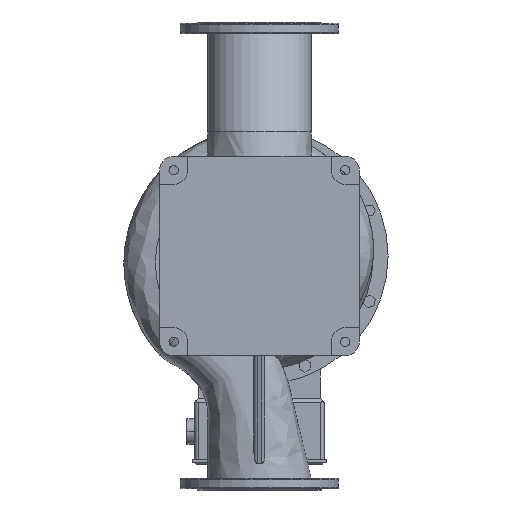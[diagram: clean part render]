
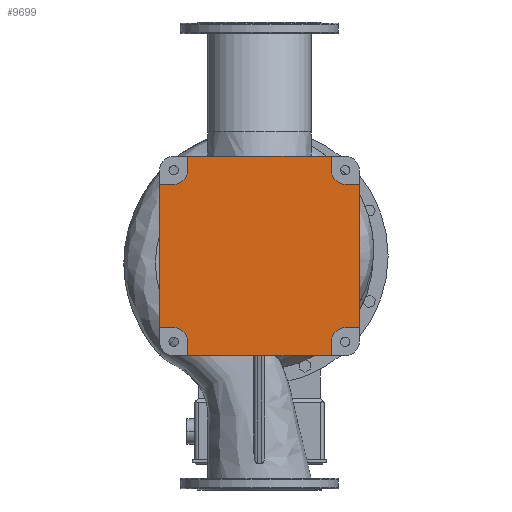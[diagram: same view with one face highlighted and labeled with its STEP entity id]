
A CAD part, front view. The second image highlights one B-rep face of the part: STEP entity #9699.
In plain terms, the highlighted planar face has unit normal (0, -1, 0).
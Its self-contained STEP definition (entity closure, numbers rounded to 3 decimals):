
#32 = CARTESIAN_POINT ( 'NONE',  ( 184., -300., 220. ) ) ;
#313 = CARTESIAN_POINT ( 'NONE',  ( -256., -300., 184. ) ) ;
#452 = VERTEX_POINT ( 'NONE', #11886 ) ;
#931 = CARTESIAN_POINT ( 'NONE',  ( -184., -300., 220. ) ) ;
#1039 = VERTEX_POINT ( 'NONE', #23286 ) ;
#1996 = VECTOR ( 'NONE', #16384, 1000. ) ;
#2011 = VECTOR ( 'NONE', #2396, 1000. ) ;
#2184 = ORIENTED_EDGE ( 'NONE', *, *, #9184, .T. ) ;
#2396 = DIRECTION ( 'NONE',  ( 1., 0., 0. ) ) ;
#2421 = CARTESIAN_POINT ( 'NONE',  ( 256., -300., 184. ) ) ;
#2545 = LINE ( 'NONE', #32, #1996 ) ;
#2625 = AXIS2_PLACEMENT_3D ( 'NONE', #17658, #9736, #12782 ) ;
#2757 = CARTESIAN_POINT ( 'NONE',  ( 220., -300., -184. ) ) ;
#2786 = ORIENTED_EDGE ( 'NONE', *, *, #6501, .T. ) ;
#3162 = LINE ( 'NONE', #16833, #24832 ) ;
#3239 = VERTEX_POINT ( 'NONE', #35178 ) ;
#3305 = EDGE_CURVE ( 'NONE', #21780, #3239, #10865, .T. ) ;
#3332 = CARTESIAN_POINT ( 'NONE',  ( 220., -300., 184. ) ) ;
#3602 = DIRECTION ( 'NONE',  ( 0., 0., 1. ) ) ;
#3697 = VERTEX_POINT ( 'NONE', #4688 ) ;
#4048 = ORIENTED_EDGE ( 'NONE', *, *, #25291, .T. ) ;
#4058 = CIRCLE ( 'NONE', #8644, 36. ) ;
#4380 = AXIS2_PLACEMENT_3D ( 'NONE', #17268, #8449, #3602 ) ;
#4466 = DIRECTION ( 'NONE',  ( 0., 1., 0. ) ) ;
#4534 = LINE ( 'NONE', #15497, #20437 ) ;
#4688 = CARTESIAN_POINT ( 'NONE',  ( -256., -300., -184. ) ) ;
#4871 = EDGE_CURVE ( 'NONE', #25423, #23078, #16441, .T. ) ;
#4922 = VERTEX_POINT ( 'NONE', #3332 ) ;
#5133 = DIRECTION ( 'NONE',  ( -1., 0., 0. ) ) ;
#5164 = CARTESIAN_POINT ( 'NONE',  ( 220., -300., 184. ) ) ;
#5444 = LINE ( 'NONE', #2757, #15783 ) ;
#5821 = ORIENTED_EDGE ( 'NONE', *, *, #7088, .T. ) ;
#6243 = CIRCLE ( 'NONE', #11986, 36. ) ;
#6501 = EDGE_CURVE ( 'NONE', #3697, #20172, #29746, .T. ) ;
#6646 = DIRECTION ( 'NONE',  ( 1., 0., 0. ) ) ;
#7088 = EDGE_CURVE ( 'NONE', #11194, #9274, #30184, .T. ) ;
#7127 = EDGE_CURVE ( 'NONE', #10412, #20840, #4534, .T. ) ;
#7171 = ORIENTED_EDGE ( 'NONE', *, *, #3305, .T. ) ;
#7666 = DIRECTION ( 'NONE',  ( 0., 0., -1. ) ) ;
#7984 = CARTESIAN_POINT ( 'NONE',  ( 256., -300., -184. ) ) ;
#8449 = DIRECTION ( 'NONE',  ( 0., 1., 0. ) ) ;
#8454 = CARTESIAN_POINT ( 'NONE',  ( 184., -300., 220. ) ) ;
#8601 = ORIENTED_EDGE ( 'NONE', *, *, #4871, .T. ) ;
#8644 = AXIS2_PLACEMENT_3D ( 'NONE', #27426, #29435, #24197 ) ;
#8700 = DIRECTION ( 'NONE',  ( 1., 0., 0. ) ) ;
#8917 = ORIENTED_EDGE ( 'NONE', *, *, #18552, .T. ) ;
#9184 = EDGE_CURVE ( 'NONE', #23078, #11194, #25572, .T. ) ;
#9274 = VERTEX_POINT ( 'NONE', #20716 ) ;
#9275 = EDGE_CURVE ( 'NONE', #20172, #452, #30213, .T. ) ;
#9521 = VERTEX_POINT ( 'NONE', #15650 ) ;
#9699 = ADVANCED_FACE ( 'NONE', ( #21947 ), #11684, .F. ) ;
#9736 = DIRECTION ( 'NONE',  ( 0., 1., 0. ) ) ;
#10359 = LINE ( 'NONE', #32320, #12469 ) ;
#10412 = VERTEX_POINT ( 'NONE', #18273 ) ;
#10457 = CARTESIAN_POINT ( 'NONE',  ( -220., -300., 220. ) ) ;
#10613 = CARTESIAN_POINT ( 'NONE',  ( -220., -300., -184. ) ) ;
#10865 = LINE ( 'NONE', #2421, #35588 ) ;
#11129 = ORIENTED_EDGE ( 'NONE', *, *, #32848, .T. ) ;
#11194 = VERTEX_POINT ( 'NONE', #27098 ) ;
#11684 = PLANE ( 'NONE',  #4380 ) ;
#11886 = CARTESIAN_POINT ( 'NONE',  ( -184., -300., -220. ) ) ;
#11986 = AXIS2_PLACEMENT_3D ( 'NONE', #34529, #4466, #26584 ) ;
#12469 = VECTOR ( 'NONE', #7666, 1000. ) ;
#12782 = DIRECTION ( 'NONE',  ( 0., 0., 1. ) ) ;
#14383 = ORIENTED_EDGE ( 'NONE', *, *, #14797, .T. ) ;
#14797 = EDGE_CURVE ( 'NONE', #452, #1039, #10359, .T. ) ;
#15105 = CARTESIAN_POINT ( 'NONE',  ( -256., -300., -184. ) ) ;
#15497 = CARTESIAN_POINT ( 'NONE',  ( 184., -300., -220. ) ) ;
#15650 = CARTESIAN_POINT ( 'NONE',  ( 220., -300., -184. ) ) ;
#15783 = VECTOR ( 'NONE', #8700, 1000. ) ;
#16384 = DIRECTION ( 'NONE',  ( 0., 0., 1. ) ) ;
#16441 = LINE ( 'NONE', #27230, #25886 ) ;
#16701 = EDGE_CURVE ( 'NONE', #4922, #34127, #6243, .T. ) ;
#16833 = CARTESIAN_POINT ( 'NONE',  ( -220., -300., 184. ) ) ;
#16868 = ORIENTED_EDGE ( 'NONE', *, *, #22278, .T. ) ;
#17268 = CARTESIAN_POINT ( 'NONE',  ( -220., -300., -220. ) ) ;
#17658 = CARTESIAN_POINT ( 'NONE',  ( -220., -300., -220. ) ) ;
#17803 = ORIENTED_EDGE ( 'NONE', *, *, #21308, .T. ) ;
#18139 = VECTOR ( 'NONE', #34050, 1000. ) ;
#18273 = CARTESIAN_POINT ( 'NONE',  ( 184., -300., -256. ) ) ;
#18552 = EDGE_CURVE ( 'NONE', #20840, #9521, #4058, .T. ) ;
#18642 = DIRECTION ( 'NONE',  ( -1., 0., 0. ) ) ;
#18831 = LINE ( 'NONE', #5164, #35169 ) ;
#19036 = ORIENTED_EDGE ( 'NONE', *, *, #26070, .T. ) ;
#20172 = VERTEX_POINT ( 'NONE', #10613 ) ;
#20437 = VECTOR ( 'NONE', #26477, 1000. ) ;
#20487 = ORIENTED_EDGE ( 'NONE', *, *, #16701, .T. ) ;
#20510 = CARTESIAN_POINT ( 'NONE',  ( 184., -300., 256. ) ) ;
#20716 = CARTESIAN_POINT ( 'NONE',  ( -220., -300., 184. ) ) ;
#20840 = VERTEX_POINT ( 'NONE', #24794 ) ;
#20898 = DIRECTION ( 'NONE',  ( 0., 1., 0. ) ) ;
#21308 = EDGE_CURVE ( 'NONE', #3239, #4922, #18831, .T. ) ;
#21420 = EDGE_CURVE ( 'NONE', #9274, #30492, #3162, .T. ) ;
#21780 = VERTEX_POINT ( 'NONE', #7984 ) ;
#21947 = FACE_OUTER_BOUND ( 'NONE', #35545, .T. ) ;
#22278 = EDGE_CURVE ( 'NONE', #1039, #10412, #34015, .T. ) ;
#23078 = VERTEX_POINT ( 'NONE', #24732 ) ;
#23286 = CARTESIAN_POINT ( 'NONE',  ( -184., -300., -256. ) ) ;
#23710 = ORIENTED_EDGE ( 'NONE', *, *, #7127, .T. ) ;
#24197 = DIRECTION ( 'NONE',  ( 0., 0., 1. ) ) ;
#24595 = ORIENTED_EDGE ( 'NONE', *, *, #21420, .T. ) ;
#24732 = CARTESIAN_POINT ( 'NONE',  ( -184., -300., 256. ) ) ;
#24778 = VECTOR ( 'NONE', #6646, 1000. ) ;
#24794 = CARTESIAN_POINT ( 'NONE',  ( 184., -300., -220. ) ) ;
#24832 = VECTOR ( 'NONE', #25834, 1000. ) ;
#25291 = EDGE_CURVE ( 'NONE', #30492, #3697, #25728, .T. ) ;
#25423 = VERTEX_POINT ( 'NONE', #20510 ) ;
#25572 = LINE ( 'NONE', #931, #18139 ) ;
#25728 = LINE ( 'NONE', #15105, #33586 ) ;
#25834 = DIRECTION ( 'NONE',  ( -1., 0., 0. ) ) ;
#25886 = VECTOR ( 'NONE', #5133, 1000. ) ;
#26070 = EDGE_CURVE ( 'NONE', #9521, #21780, #5444, .T. ) ;
#26180 = AXIS2_PLACEMENT_3D ( 'NONE', #10457, #20898, #35120 ) ;
#26477 = DIRECTION ( 'NONE',  ( 0., 0., 1. ) ) ;
#26584 = DIRECTION ( 'NONE',  ( 0., 0., 1. ) ) ;
#26862 = ORIENTED_EDGE ( 'NONE', *, *, #9275, .T. ) ;
#27098 = CARTESIAN_POINT ( 'NONE',  ( -184., -300., 220. ) ) ;
#27230 = CARTESIAN_POINT ( 'NONE',  ( -184., -300., 256. ) ) ;
#27426 = CARTESIAN_POINT ( 'NONE',  ( 220., -300., -220. ) ) ;
#29435 = DIRECTION ( 'NONE',  ( 0., 1., 0. ) ) ;
#29746 = LINE ( 'NONE', #35502, #2011 ) ;
#30184 = CIRCLE ( 'NONE', #26180, 36. ) ;
#30213 = CIRCLE ( 'NONE', #2625, 36. ) ;
#30492 = VERTEX_POINT ( 'NONE', #313 ) ;
#31132 = CARTESIAN_POINT ( 'NONE',  ( 184., -300., -256. ) ) ;
#31304 = DIRECTION ( 'NONE',  ( 0., 0., -1. ) ) ;
#32320 = CARTESIAN_POINT ( 'NONE',  ( -184., -300., -220. ) ) ;
#32848 = EDGE_CURVE ( 'NONE', #34127, #25423, #2545, .T. ) ;
#33586 = VECTOR ( 'NONE', #31304, 1000. ) ;
#34015 = LINE ( 'NONE', #31132, #24778 ) ;
#34050 = DIRECTION ( 'NONE',  ( 0., 0., -1. ) ) ;
#34127 = VERTEX_POINT ( 'NONE', #8454 ) ;
#34529 = CARTESIAN_POINT ( 'NONE',  ( 220., -300., 220. ) ) ;
#35003 = DIRECTION ( 'NONE',  ( 0., 0., 1. ) ) ;
#35120 = DIRECTION ( 'NONE',  ( 0., 0., 1. ) ) ;
#35169 = VECTOR ( 'NONE', #18642, 1000. ) ;
#35178 = CARTESIAN_POINT ( 'NONE',  ( 256., -300., 184. ) ) ;
#35502 = CARTESIAN_POINT ( 'NONE',  ( -220., -300., -184. ) ) ;
#35545 = EDGE_LOOP ( 'NONE', ( #26862, #14383, #16868, #23710, #8917, #19036, #7171, #17803, #20487, #11129, #8601, #2184, #5821, #24595, #4048, #2786 ) ) ;
#35588 = VECTOR ( 'NONE', #35003, 1000. ) ;
